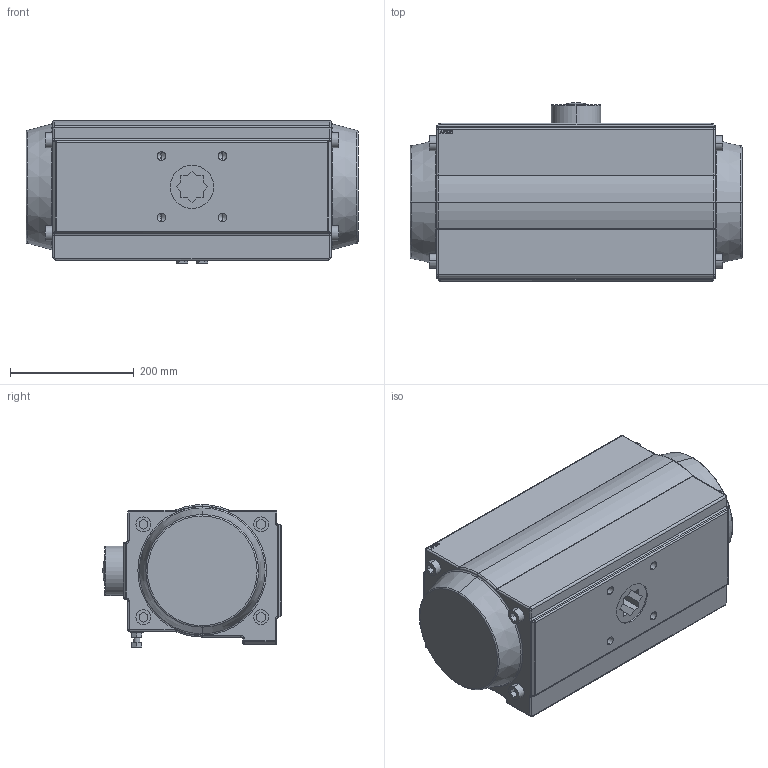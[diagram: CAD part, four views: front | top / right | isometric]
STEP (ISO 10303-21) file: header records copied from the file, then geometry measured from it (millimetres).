
FILE_DESCRIPTION (( 'STEP AP203' ), '1' );
FILE_NAME ('AP210.STEP', '2020-04-08T11:54:38', ( '' ), ( '' ), 'SwSTEP 2.0', 'SolidWorks 2017', '' );
FILE_SCHEMA (( 'CONFIG_CONTROL_DESIGN' ));
Length unit declared in the file: millimetre
Products named in the file (1): AP210
Bounding box: 536 x 288 x 230.76 mm (x, y, z)
Volume: 25753307.2 mm3; surface area: 586863.1 mm2
Topology: 1 solids, 1 shells, 481 faces, 1151 edges, 701 vertices
Faces by surface type: plane 205, cylinder 118, bspline 62, cone 56, torus 38, sphere 2
Entity records: 16650 total; most frequent: CARTESIAN_POINT 5936, ORIENTED_EDGE 2246, DIRECTION 2111, EDGE_CURVE 1123, AXIS2_PLACEMENT_3D 740, VERTEX_POINT 701, LINE 631, VECTOR 631
